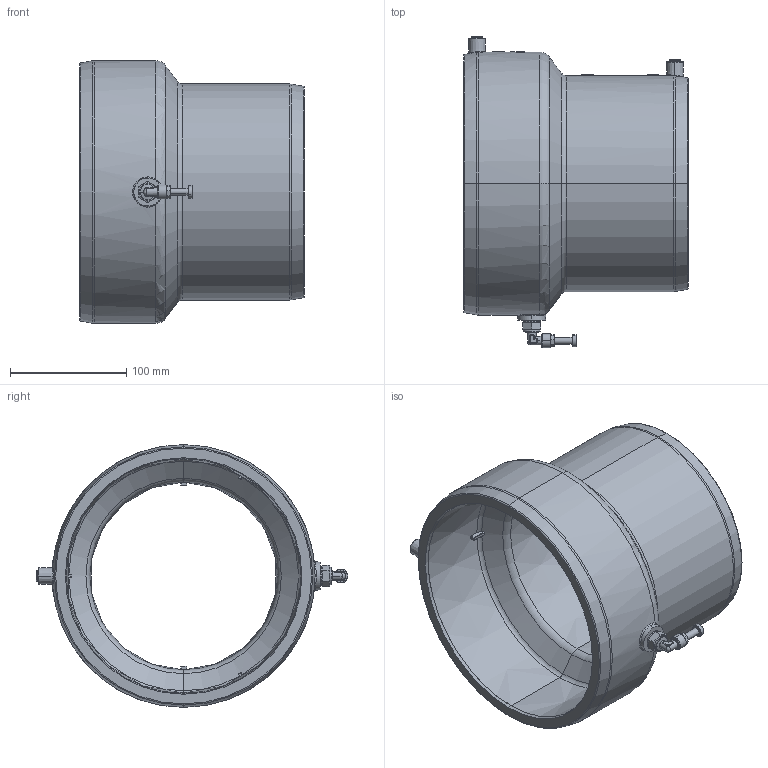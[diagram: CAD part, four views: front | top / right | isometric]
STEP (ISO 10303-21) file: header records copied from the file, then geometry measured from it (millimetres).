
FILE_DESCRIPTION (( 'STEP AP214' ), '1' );
FILE_NAME ('KP_T200-160SC2A.STEP', '2023-03-06T08:28:49', ( '' ), ( '' ), 'SwSTEP 2.0', 'SolidWorks 2022', '' );
FILE_SCHEMA (( 'AUTOMOTIVE_DESIGN' ));
Length unit declared in the file: millimetre
Products named in the file (1): KP_T200-160SC2A
Bounding box: 193 x 267.6 x 225.8 mm (x, y, z)
Volume: 1464983.4 mm3; surface area: 259792.9 mm2
Topology: 1 solids, 8 shells, 757 faces, 1880 edges, 1162 vertices
Faces by surface type: plane 252, cylinder 176, bspline 158, cone 102, torus 55, sphere 14
Entity records: 28824 total; most frequent: CARTESIAN_POINT 12415, ORIENTED_EDGE 3716, DIRECTION 2922, EDGE_CURVE 1858, AXIS2_PLACEMENT_3D 1163, VERTEX_POINT 1160, EDGE_LOOP 828, ADVANCED_FACE 757
